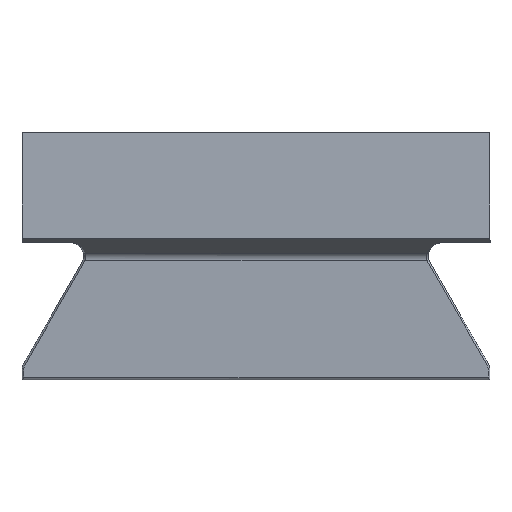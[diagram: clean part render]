
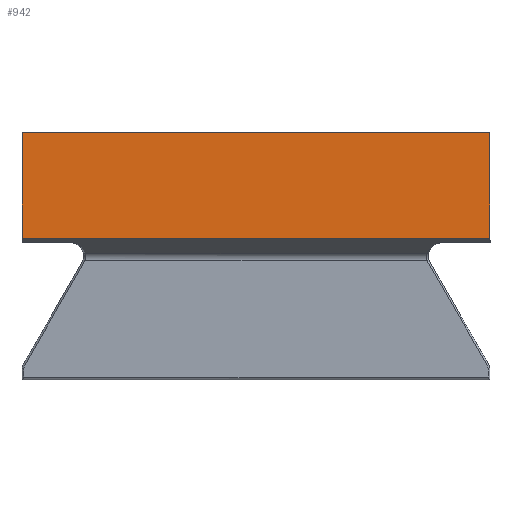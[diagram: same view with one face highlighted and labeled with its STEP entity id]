
A CAD part, top view. The second image highlights one B-rep face of the part: STEP entity #942.
In plain terms, the highlighted planar face has unit normal (0, 0, 1).
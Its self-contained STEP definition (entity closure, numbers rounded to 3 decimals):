
#61 = EDGE_CURVE ( 'NONE', #1262, #721, #215, .T. ) ;
#104 = ORIENTED_EDGE ( 'NONE', *, *, #2642, .F. ) ;
#163 = VECTOR ( 'NONE', #2719, 1000. ) ;
#215 = LINE ( 'NONE', #998, #2142 ) ;
#496 = CARTESIAN_POINT ( 'NONE',  ( -26.5, 16., 4. ) ) ;
#509 = LINE ( 'NONE', #743, #2025 ) ;
#545 = CARTESIAN_POINT ( 'NONE',  ( 26.5, 28., 4. ) ) ;
#721 = VERTEX_POINT ( 'NONE', #2798 ) ;
#743 = CARTESIAN_POINT ( 'NONE',  ( 26.5, 28., 4. ) ) ;
#749 = CARTESIAN_POINT ( 'NONE',  ( -26.5, 28., 4. ) ) ;
#879 = VERTEX_POINT ( 'NONE', #1489 ) ;
#942 = ADVANCED_FACE ( 'NONE', ( #2796 ), #3089, .F. ) ;
#973 = VERTEX_POINT ( 'NONE', #749 ) ;
#998 = CARTESIAN_POINT ( 'NONE',  ( -42.926, 16., 4. ) ) ;
#1190 = AXIS2_PLACEMENT_3D ( 'NONE', #545, #1290, #2843 ) ;
#1226 = ORIENTED_EDGE ( 'NONE', *, *, #2989, .F. ) ;
#1262 = VERTEX_POINT ( 'NONE', #496 ) ;
#1290 = DIRECTION ( 'NONE',  ( 0., 0., -1. ) ) ;
#1489 = CARTESIAN_POINT ( 'NONE',  ( 26.5, 28., 4. ) ) ;
#1623 = CARTESIAN_POINT ( 'NONE',  ( -26.5, 28., 4. ) ) ;
#1668 = ORIENTED_EDGE ( 'NONE', *, *, #61, .T. ) ;
#1678 = CARTESIAN_POINT ( 'NONE',  ( 26.5, 28., 4. ) ) ;
#1778 = DIRECTION ( 'NONE',  ( 1., 0., 0. ) ) ;
#1921 = VECTOR ( 'NONE', #2644, 1000. ) ;
#2025 = VECTOR ( 'NONE', #1778, 1000. ) ;
#2142 = VECTOR ( 'NONE', #3039, 1000. ) ;
#2149 = EDGE_LOOP ( 'NONE', ( #1668, #1226, #104, #2360 ) ) ;
#2252 = EDGE_CURVE ( 'NONE', #973, #1262, #2898, .T. ) ;
#2360 = ORIENTED_EDGE ( 'NONE', *, *, #2252, .T. ) ;
#2642 = EDGE_CURVE ( 'NONE', #973, #879, #509, .T. ) ;
#2644 = DIRECTION ( 'NONE',  ( 0., -1., 0. ) ) ;
#2719 = DIRECTION ( 'NONE',  ( 0., -1., 0. ) ) ;
#2796 = FACE_OUTER_BOUND ( 'NONE', #2149, .T. ) ;
#2798 = CARTESIAN_POINT ( 'NONE',  ( 26.5, 16., 4. ) ) ;
#2843 = DIRECTION ( 'NONE',  ( -1., 0., 0. ) ) ;
#2898 = LINE ( 'NONE', #1623, #1921 ) ;
#2989 = EDGE_CURVE ( 'NONE', #879, #721, #3003, .T. ) ;
#3003 = LINE ( 'NONE', #1678, #163 ) ;
#3039 = DIRECTION ( 'NONE',  ( 1., 0., 0. ) ) ;
#3089 = PLANE ( 'NONE',  #1190 ) ;
